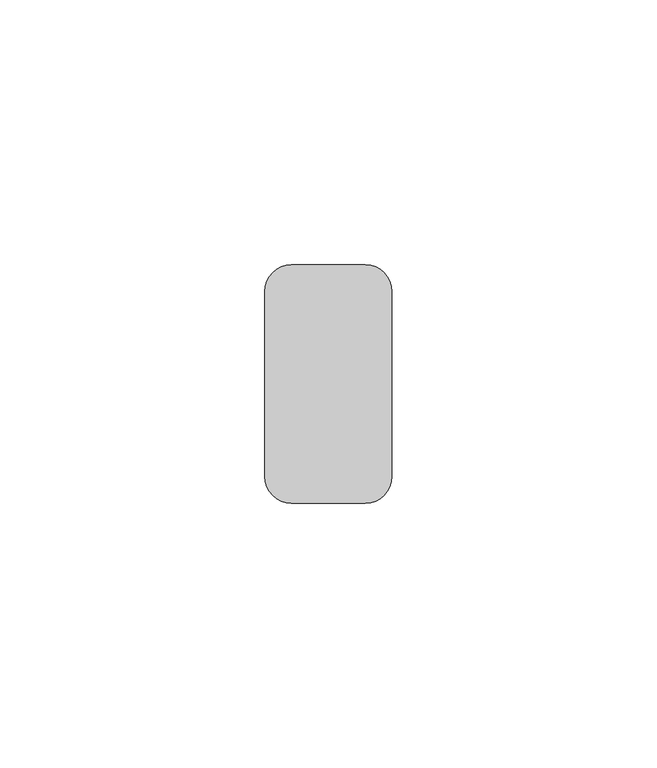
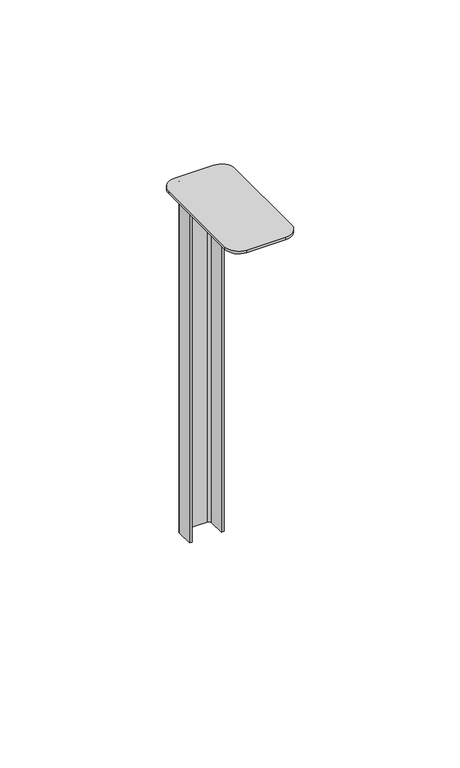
"""IFC4 building model written with IfcOpenShell, lengths in millimetres: proxy geometry, durlum_U1300 : durlum_U1300."""

from ifc_helpers import new_model, si_unit, point, frame, frame_2d, origin, place, context, project, spatial, polyline, circle_curve, trimmed, segment, composite_curve, outline, extrude, source, transform, mapped, element, save


def generic_models_ce491251(model_context):
    return source(origin(), model_context, "Body", "SweptSolid", [
        extrude(outline(composite_curve([segment(trimmed(circle_curve(frame_2d((7.0, -5.0)), 5.0), [point((7.0, 0.0))], [point((12.0, -5.0))], False, "CARTESIAN"), True, "CONTINUOUS"), segment(polyline([(12.0, -5.0), (12.0, -40.0)]), True, "CONTINUOUS"), segment(trimmed(circle_curve(frame_2d((7.0, -40.0)), 5.0), [point((12.0, -40.0))], [point((7.0, -45.0))], False, "CARTESIAN"), True, "CONTINUOUS"), segment(polyline([(7.0, -45.0), (-7.0, -45.0)]), True, "CONTINUOUS"), segment(trimmed(circle_curve(frame_2d((-7.0, -40.0)), 5.0), [point((-7.0, -45.0))], [point((-12.0, -40.0))], False, "CARTESIAN"), True, "CONTINUOUS"), segment(polyline([(-12.0, -40.0), (-12.0, -5.0)]), True, "CONTINUOUS"), segment(trimmed(circle_curve(frame_2d((-7.0, -5.0)), 5.0), [point((-12.0, -5.0))], [point((-7.0, 0.0))], False, "CARTESIAN"), True, "CONTINUOUS"), segment(polyline([(-7.0, 0.0), (7.0, 0.0)]), True, "CONTINUOUS")], self_intersect=False)), frame((0.0, 0.0, 849.5875318), z_axis=(0.0, 0.0, 1.0), x_axis=(1.0, 0.0, 0.0)), (0.0, 0.0, 1.0), 1.0),
        extrude(outline(composite_curve([segment(trimmed(circle_curve(frame_2d((-4.25, -2.0)), 2.0), [point((-6.25, -2.0))], [point((-4.25, 0.0))], False, "CARTESIAN"), True, "CONTINUOUS"), segment(polyline([(-4.25, 0.0), (4.25, 0.0)]), True, "CONTINUOUS"), segment(trimmed(circle_curve(frame_2d((4.25, -2.0)), 2.0), [point((4.25, 0.0))], [point((6.25, -2.0))], False, "CARTESIAN"), True, "CONTINUOUS"), segment(polyline([(6.25, -2.0), (6.25, -8.0), (5.25, -8.0), (5.25, -2.0)]), True, "CONTINUOUS"), segment(trimmed(circle_curve(frame_2d((4.25, -2.0)), 1.0), [point((5.25, -2.0))], [point((4.25, -1.0))], True, "CARTESIAN"), True, "CONTINUOUS"), segment(polyline([(4.25, -1.0), (-4.25, -1.0)]), True, "CONTINUOUS"), segment(trimmed(circle_curve(frame_2d((-4.25, -2.0)), 1.0), [point((-4.25, -1.0))], [point((-5.25, -2.0))], True, "CARTESIAN"), True, "CONTINUOUS"), segment(polyline([(-5.25, -2.0), (-5.25, -8.0), (-6.25, -8.0), (-6.25, -2.0)]), True, "CONTINUOUS")], self_intersect=False)), frame((0.0, 0.0, 716.5875318), z_axis=(0.0, 0.0, 1.0), x_axis=(1.0, 0.0, 0.0)), (0.0, 0.0, 1.0), 133.0),
    ])


if __name__ == "__main__":
    model = new_model("IFC4")
    model_context = context("Model", 3, world=origin())
    ifc_project = project(units=[si_unit("LENGTHUNIT", "METRE", prefix="MILLI")], contexts=[model_context])
    site = spatial("IfcSite", under=ifc_project)
    building = spatial("IfcBuilding", under=site)
    placement = place(None, origin())
    generic_models_shape = generic_models_ce491251(model_context)
    element("IfcBuildingElementProxy", 1, Name="durlum_U1300 : durlum_U1300", ObjectType="durlum_U1300 : durlum_U1300", at=placement, inside=building, context=model_context, shape_type="MappedRepresentation", body=[
        mapped(generic_models_shape, transform((0.0, 0.0, 0.0), x_axis=(1.0, 0.0, 0.0), y_axis=(0.0, 1.0, 0.0), z_axis=(0.0, 0.0, 1.0))),
    ])
    save(model, "model.ifc")
